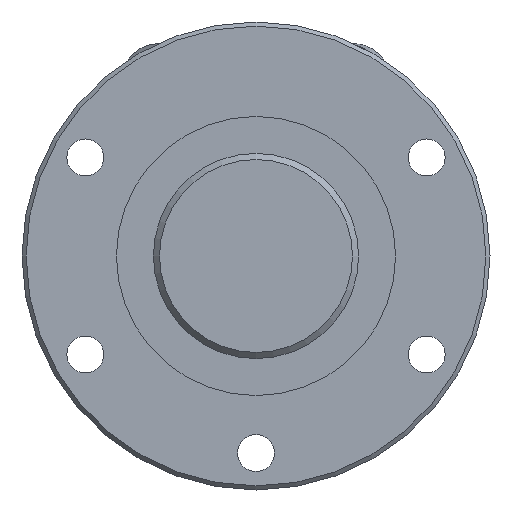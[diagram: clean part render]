
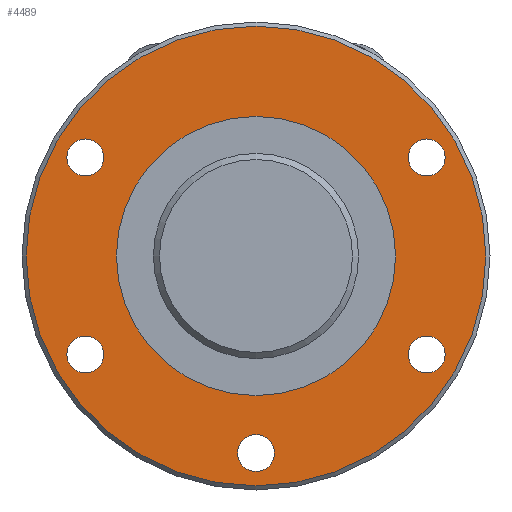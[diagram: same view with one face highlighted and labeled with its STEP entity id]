
A CAD part, left-side view. The second image highlights one B-rep face of the part: STEP entity #4489.
In plain terms, the highlighted planar face has unit normal (-1, 0, 0).
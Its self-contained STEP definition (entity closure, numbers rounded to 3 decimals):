
#1606=ORIENTED_EDGE('',*,*,#2735,.T.);
#1607=ORIENTED_EDGE('',*,*,#2736,.T.);
#1608=ORIENTED_EDGE('',*,*,#2737,.T.);
#1609=ORIENTED_EDGE('',*,*,#2738,.T.);
#1610=ORIENTED_EDGE('',*,*,#2739,.T.);
#1611=ORIENTED_EDGE('',*,*,#2740,.T.);
#1612=ORIENTED_EDGE('',*,*,#2741,.F.);
#2735=EDGE_CURVE('',#3292,#3292,#3474,.T.);
#2736=EDGE_CURVE('',#3293,#3293,#3475,.T.);
#2737=EDGE_CURVE('',#3294,#3294,#3476,.T.);
#2738=EDGE_CURVE('',#3295,#3295,#3477,.T.);
#2739=EDGE_CURVE('',#3296,#3296,#3478,.T.);
#2740=EDGE_CURVE('',#3297,#3297,#3479,.T.);
#2741=EDGE_CURVE('',#3298,#3298,#3480,.T.);
#3292=VERTEX_POINT('',#7128);
#3293=VERTEX_POINT('',#7130);
#3294=VERTEX_POINT('',#7132);
#3295=VERTEX_POINT('',#7134);
#3296=VERTEX_POINT('',#7136);
#3297=VERTEX_POINT('',#7138);
#3298=VERTEX_POINT('',#7140);
#3474=CIRCLE('',#4789,34.);
#3475=CIRCLE('',#4790,4.5);
#3476=CIRCLE('',#4791,4.5);
#3477=CIRCLE('',#4792,4.5);
#3478=CIRCLE('',#4793,4.5);
#3479=CIRCLE('',#4794,4.5);
#3480=CIRCLE('',#4795,56.);
#3663=EDGE_LOOP('',(#1606));
#3664=EDGE_LOOP('',(#1607));
#3665=EDGE_LOOP('',(#1608));
#3666=EDGE_LOOP('',(#1609));
#3667=EDGE_LOOP('',(#1610));
#3668=EDGE_LOOP('',(#1611));
#3669=EDGE_LOOP('',(#1612));
#3993=FACE_BOUND('',#3663,.T.);
#3994=FACE_BOUND('',#3664,.T.);
#3995=FACE_BOUND('',#3665,.T.);
#3996=FACE_BOUND('',#3666,.T.);
#3997=FACE_BOUND('',#3667,.T.);
#3998=FACE_BOUND('',#3668,.T.);
#3999=FACE_BOUND('',#3669,.T.);
#4296=PLANE('',#4788);
#4489=ADVANCED_FACE('',(#3993,#3994,#3995,#3996,#3997,#3998,#3999),#4296,
 .T.);
#4788=AXIS2_PLACEMENT_3D('',#7126,#5579,#5580);
#4789=AXIS2_PLACEMENT_3D('',#7127,#5581,#5582);
#4790=AXIS2_PLACEMENT_3D('',#7129,#5583,#5584);
#4791=AXIS2_PLACEMENT_3D('',#7131,#5585,#5586);
#4792=AXIS2_PLACEMENT_3D('',#7133,#5587,#5588);
#4793=AXIS2_PLACEMENT_3D('',#7135,#5589,#5590);
#4794=AXIS2_PLACEMENT_3D('',#7137,#5591,#5592);
#4795=AXIS2_PLACEMENT_3D('',#7139,#5593,#5594);
#5579=DIRECTION('',(-1.,0.,0.));
#5580=DIRECTION('',(0.,0.,1.));
#5581=DIRECTION('',(1.,0.,0.));
#5582=DIRECTION('',(0.,0.,-1.));
#5583=DIRECTION('',(1.,0.,0.));
#5584=DIRECTION('',(0.,0.,-1.));
#5585=DIRECTION('',(1.,0.,0.));
#5586=DIRECTION('',(0.,0.,-1.));
#5587=DIRECTION('',(1.,0.,0.));
#5588=DIRECTION('',(0.,0.,-1.));
#5589=DIRECTION('',(1.,0.,0.));
#5590=DIRECTION('',(0.,0.,-1.));
#5591=DIRECTION('',(1.,0.,0.));
#5592=DIRECTION('',(0.,0.,-1.));
#5593=DIRECTION('',(1.,0.,0.));
#5594=DIRECTION('',(0.,0.,-1.));
#7126=CARTESIAN_POINT('',(0.,56.,0.));
#7127=CARTESIAN_POINT('',(0.,0.,0.));
#7128=CARTESIAN_POINT('',(0.,0.,-34.));
#7129=CARTESIAN_POINT('',(0.,-48.,0.));
#7130=CARTESIAN_POINT('',(0.,-48.,-4.5));
#7131=CARTESIAN_POINT('',(0.,-24.,41.569));
#7132=CARTESIAN_POINT('',(0.,-24.,37.069));
#7133=CARTESIAN_POINT('',(0.,24.,-41.569));
#7134=CARTESIAN_POINT('',(0.,24.,-46.069));
#7135=CARTESIAN_POINT('',(0.,-24.,-41.569));
#7136=CARTESIAN_POINT('',(0.,-24.,-46.069));
#7137=CARTESIAN_POINT('',(0.,24.,41.569));
#7138=CARTESIAN_POINT('',(0.,24.,37.069));
#7139=CARTESIAN_POINT('',(0.,0.,0.));
#7140=CARTESIAN_POINT('',(0.,0.,-56.));
